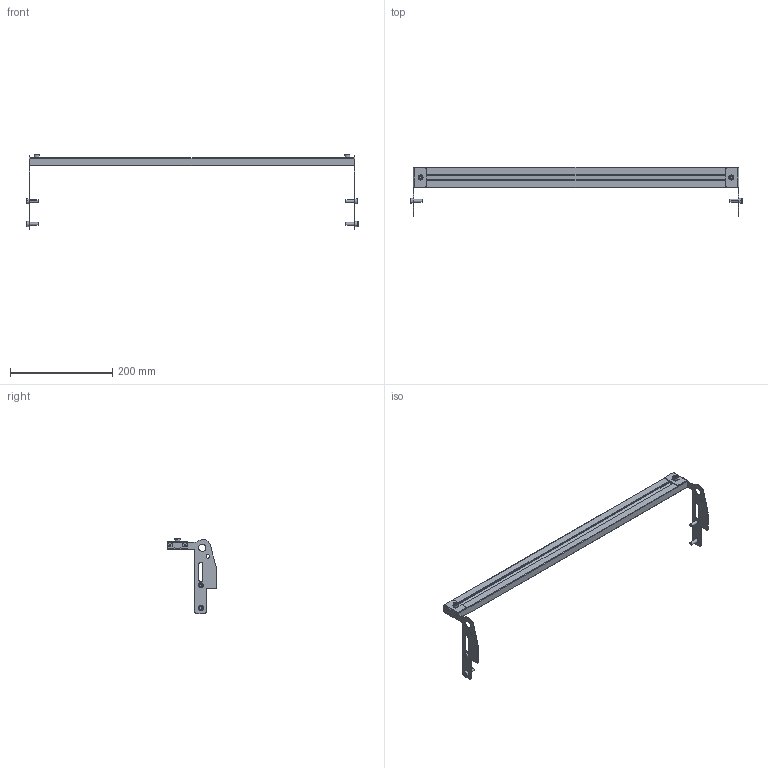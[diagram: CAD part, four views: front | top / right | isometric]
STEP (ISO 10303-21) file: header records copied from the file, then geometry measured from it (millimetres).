
FILE_DESCRIPTION (( 'STEP AP203' ), '1' );
FILE_NAME ('207215-24.STEP', '2017-04-24T21:43:47', ( '' ), ( '' ), 'SwSTEP 2.0', 'SolidWorks 2015', '' );
FILE_SCHEMA (( 'CONFIG_CONTROL_DESIGN' ));
Length unit declared in the file: inch
Products named in the file (7): 9206XXM_920612M; 207132-LH; 9206XXM_920618M; 834-FASN-M6; 207132-RH; 207215-24; 207217-WW_207217-24
Assembly tree (11 placements, depth 2):
  207215-24
    207217-WW_207217-24
    834-FASN-M6  x2
    9206XXM_920612M  x2
    9206XXM_920618M  x4
    207132-RH
    207132-LH
Bounding box: 649.44 x 96.26 x 147.86 mm (x, y, z)
Volume: 197871.3 mm3; surface area: 180992 mm2
Topology: 11 solids, 11 shells, 342 faces, 812 edges, 504 vertices
Faces by surface type: plane 148, cylinder 128, cone 66
Entity records: 8241 total; most frequent: CARTESIAN_POINT 1368, DIRECTION 1330, ORIENTED_EDGE 1212, EDGE_CURVE 606, AXIS2_PLACEMENT_3D 490, VERTEX_POINT 388, VECTOR 350, LINE 350
